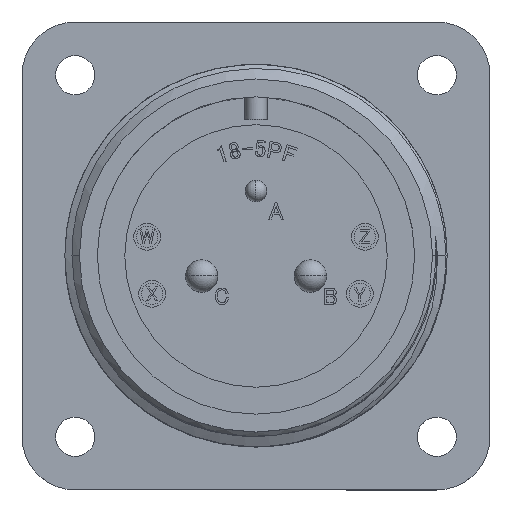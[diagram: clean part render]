
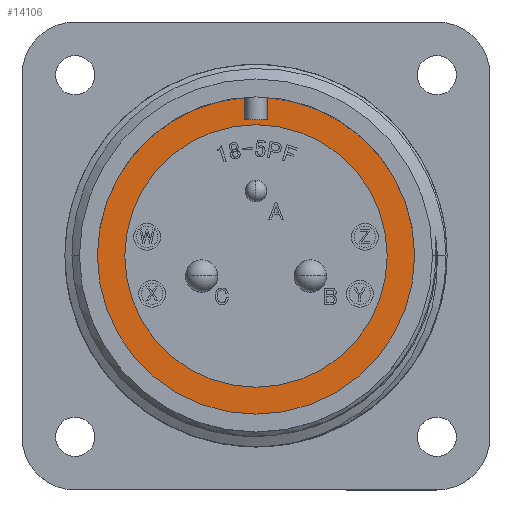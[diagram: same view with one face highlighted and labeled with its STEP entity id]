
A CAD part, top view. The second image highlights one B-rep face of the part: STEP entity #14106.
In plain terms, the highlighted planar face has unit normal (0, 0, 1).
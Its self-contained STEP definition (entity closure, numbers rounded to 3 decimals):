
#951 = VERTEX_POINT ( 'NONE', #29513 ) ;
#1147 = LINE ( 'NONE', #41399, #32939 ) ;
#1730 = EDGE_CURVE ( 'NONE', #25919, #38374, #38114, .T. ) ;
#3443 = ORIENTED_EDGE ( 'NONE', *, *, #28918, .T. ) ;
#4153 = DIRECTION ( 'NONE',  ( -1., 0., 0. ) ) ;
#5183 = PLANE ( 'NONE',  #31220 ) ;
#5293 = DIRECTION ( 'NONE',  ( 0., 0., 1. ) ) ;
#5588 = ORIENTED_EDGE ( 'NONE', *, *, #41599, .F. ) ;
#6341 = EDGE_CURVE ( 'NONE', #51236, #27238, #19598, .T. ) ;
#8125 = ORIENTED_EDGE ( 'NONE', *, *, #41762, .T. ) ;
#8362 = LINE ( 'NONE', #8564, #30462 ) ;
#8479 = EDGE_LOOP ( 'NONE', ( #22619, #3443, #8125, #47789, #40482, #5588 ) ) ;
#8564 = CARTESIAN_POINT ( 'NONE',  ( -0.825, 500000., -19.18 ) ) ;
#10117 = FACE_BOUND ( 'NONE', #53360, .T. ) ;
#10696 = AXIS2_PLACEMENT_3D ( 'NONE', #30191, #5293, #34370 ) ;
#11662 = CARTESIAN_POINT ( 'NONE',  ( -0.825, 10.16, -19.18 ) ) ;
#13534 = DIRECTION ( 'NONE',  ( 1., 0., 0. ) ) ;
#13606 = CARTESIAN_POINT ( 'NONE',  ( 0., 0., -19.18 ) ) ;
#14106 = ADVANCED_FACE ( 'NONE', ( #10117, #32189 ), #5183, .T. ) ;
#14585 = EDGE_CURVE ( 'NONE', #38374, #25919, #52322, .T. ) ;
#15371 = DIRECTION ( 'NONE',  ( 0., 0., 1. ) ) ;
#15856 = VERTEX_POINT ( 'NONE', #11662 ) ;
#17709 = DIRECTION ( 'NONE',  ( 1., 0., 0. ) ) ;
#17784 = DIRECTION ( 'NONE',  ( 1., 0., 0. ) ) ;
#18230 = CARTESIAN_POINT ( 'NONE',  ( 0., 0., -19.18 ) ) ;
#19135 = VERTEX_POINT ( 'NONE', #25830 ) ;
#19598 = LINE ( 'NONE', #20256, #29345 ) ;
#20256 = CARTESIAN_POINT ( 'NONE',  ( 0.825, 500000., -19.18 ) ) ;
#20821 = CARTESIAN_POINT ( 'NONE',  ( 0., 0., -19.18 ) ) ;
#21719 = CARTESIAN_POINT ( 'NONE',  ( 0., 11.84, -19.18 ) ) ;
#22619 = ORIENTED_EDGE ( 'NONE', *, *, #39192, .T. ) ;
#22849 = CARTESIAN_POINT ( 'NONE',  ( 0., 0., -19.18 ) ) ;
#24965 = DIRECTION ( 'NONE',  ( 1., 0., 0. ) ) ;
#25830 = CARTESIAN_POINT ( 'NONE',  ( -11.84, 0., -19.18 ) ) ;
#25919 = VERTEX_POINT ( 'NONE', #53027 ) ;
#26664 = CIRCLE ( 'NONE', #36242, 11.84 ) ;
#27025 = DIRECTION ( 'NONE',  ( 1., 0., 0. ) ) ;
#27210 = AXIS2_PLACEMENT_3D ( 'NONE', #22849, #51951, #27025 ) ;
#27238 = VERTEX_POINT ( 'NONE', #32515 ) ;
#27297 = EDGE_CURVE ( 'NONE', #27238, #15856, #1147, .T. ) ;
#28918 = EDGE_CURVE ( 'NONE', #19135, #35999, #31541, .T. ) ;
#29345 = VECTOR ( 'NONE', #41145, 1000. ) ;
#29468 = AXIS2_PLACEMENT_3D ( 'NONE', #13606, #42714, #17784 ) ;
#29513 = CARTESIAN_POINT ( 'NONE',  ( -0.825, 11.811, -19.18 ) ) ;
#30191 = CARTESIAN_POINT ( 'NONE',  ( 0., 0., -19.18 ) ) ;
#30462 = VECTOR ( 'NONE', #37614, 1000. ) ;
#30685 = CARTESIAN_POINT ( 'NONE',  ( 0.825, 11.811, -19.18 ) ) ;
#31220 = AXIS2_PLACEMENT_3D ( 'NONE', #21719, #38424, #13534 ) ;
#31541 = CIRCLE ( 'NONE', #29468, 11.84 ) ;
#32189 = FACE_OUTER_BOUND ( 'NONE', #8479, .T. ) ;
#32515 = CARTESIAN_POINT ( 'NONE',  ( 0.825, 10.16, -19.18 ) ) ;
#32939 = VECTOR ( 'NONE', #4153, 1000. ) ;
#33052 = AXIS2_PLACEMENT_3D ( 'NONE', #18230, #15371, #17709 ) ;
#33779 = ORIENTED_EDGE ( 'NONE', *, *, #14585, .F. ) ;
#34370 = DIRECTION ( 'NONE',  ( 1., 0., 0. ) ) ;
#35999 = VERTEX_POINT ( 'NONE', #49699 ) ;
#36242 = AXIS2_PLACEMENT_3D ( 'NONE', #20821, #49906, #24965 ) ;
#36301 = CIRCLE ( 'NONE', #27210, 11.84 ) ;
#37614 = DIRECTION ( 'NONE',  ( 0., -1., 0. ) ) ;
#38114 = CIRCLE ( 'NONE', #33052, 9.795 ) ;
#38374 = VERTEX_POINT ( 'NONE', #40171 ) ;
#38424 = DIRECTION ( 'NONE',  ( 0., 0., 1. ) ) ;
#39192 = EDGE_CURVE ( 'NONE', #951, #19135, #26664, .T. ) ;
#40091 = ORIENTED_EDGE ( 'NONE', *, *, #1730, .F. ) ;
#40171 = CARTESIAN_POINT ( 'NONE',  ( -9.795, 0., -19.18 ) ) ;
#40482 = ORIENTED_EDGE ( 'NONE', *, *, #27297, .T. ) ;
#41145 = DIRECTION ( 'NONE',  ( 0., -1., 0. ) ) ;
#41399 = CARTESIAN_POINT ( 'NONE',  ( 0.825, 10.16, -19.18 ) ) ;
#41599 = EDGE_CURVE ( 'NONE', #951, #15856, #8362, .T. ) ;
#41762 = EDGE_CURVE ( 'NONE', #35999, #51236, #36301, .T. ) ;
#42714 = DIRECTION ( 'NONE',  ( 0., 0., 1. ) ) ;
#47789 = ORIENTED_EDGE ( 'NONE', *, *, #6341, .T. ) ;
#49699 = CARTESIAN_POINT ( 'NONE',  ( 11.84, 0., -19.18 ) ) ;
#49906 = DIRECTION ( 'NONE',  ( 0., 0., 1. ) ) ;
#51236 = VERTEX_POINT ( 'NONE', #30685 ) ;
#51951 = DIRECTION ( 'NONE',  ( 0., 0., 1. ) ) ;
#52322 = CIRCLE ( 'NONE', #10696, 9.795 ) ;
#53027 = CARTESIAN_POINT ( 'NONE',  ( 9.795, 0., -19.18 ) ) ;
#53360 = EDGE_LOOP ( 'NONE', ( #40091, #33779 ) ) ;
